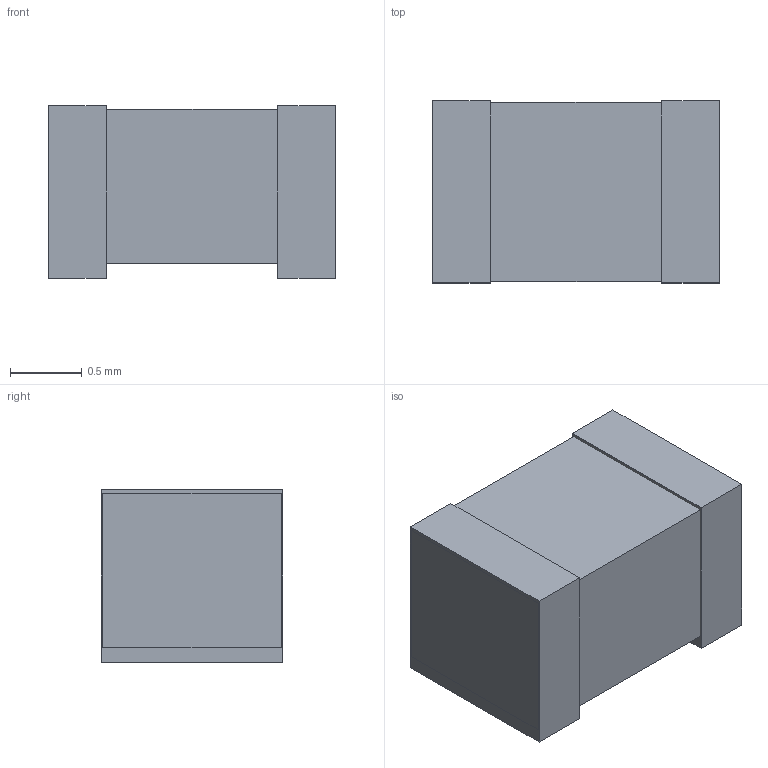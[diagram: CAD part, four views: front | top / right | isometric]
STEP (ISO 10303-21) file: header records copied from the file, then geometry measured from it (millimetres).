
FILE_DESCRIPTION(('FreeCAD Model'),'2;1');
FILE_NAME('Open CASCADE Shape Model','2026-09-21T21:53:17',('FreeCAD'),( 'FreeCAD'),'Open CASCADE STEP processor 7.8','FreeCAD','Unknown');
FILE_SCHEMA(('AUTOMOTIVE_DESIGN { 1 0 10303 214 1 1 1 1 }'));
Length unit declared in the file: millimetre
Products named in the file (1): Open CASCADE STEP translator 7.8 23
Bounding box: 2 x 1.27 x 1.21 mm (x, y, z)
Surface area: 22.1 mm2
Topology: 3 solids, 3 shells, 18 faces, 36 edges, 24 vertices
Faces by surface type: plane 18
Entity records: 466 total; most frequent: CARTESIAN_POINT 79, DIRECTION 74, ORIENTED_EDGE 72, EDGE_CURVE 36, LINE 36, VECTOR 36, VERTEX_POINT 24, AXIS2_PLACEMENT_3D 19
